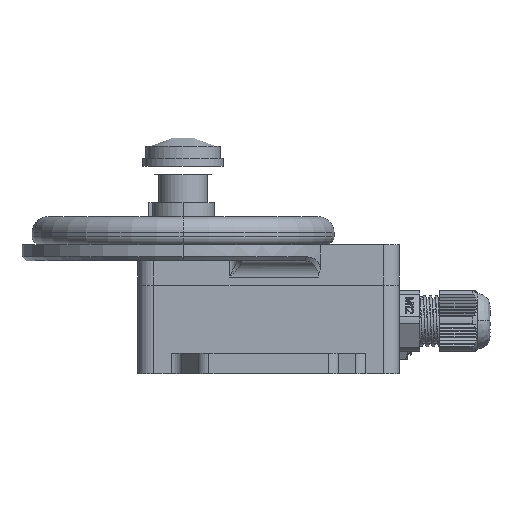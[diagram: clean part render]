
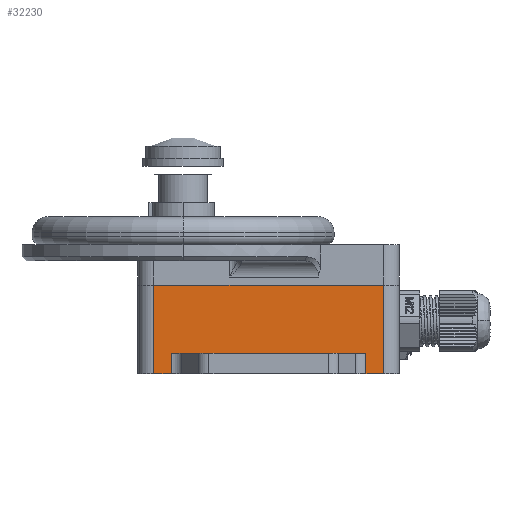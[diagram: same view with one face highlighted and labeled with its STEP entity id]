
A CAD part, left-side view. The second image highlights one B-rep face of the part: STEP entity #32230.
In plain terms, the highlighted planar face has unit normal (-1, 0, 0).
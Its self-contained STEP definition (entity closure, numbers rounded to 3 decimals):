
#3 = ORIENTED_EDGE ( 'NONE', *, *, #18602, .F. ) ;
#673 = LINE ( 'NONE', #24145, #17525 ) ;
#728 = VECTOR ( 'NONE', #8361, 1000. ) ;
#894 = CARTESIAN_POINT ( 'NONE',  ( -35.945, 14.605, 41.559 ) ) ;
#1946 = VECTOR ( 'NONE', #19356, 1000. ) ;
#2282 = DIRECTION ( 'NONE',  ( 0., 0., 1. ) ) ;
#4341 = ORIENTED_EDGE ( 'NONE', *, *, #12321, .F. ) ;
#4471 = VERTEX_POINT ( 'NONE', #27511 ) ;
#5771 = ORIENTED_EDGE ( 'NONE', *, *, #30575, .T. ) ;
#7106 = DIRECTION ( 'NONE',  ( 0., 1., 0. ) ) ;
#7134 = DIRECTION ( 'NONE',  ( 0., -1., 0. ) ) ;
#7901 = CARTESIAN_POINT ( 'NONE',  ( -35.945, -33.792, 41.559 ) ) ;
#8361 = DIRECTION ( 'NONE',  ( 0., 0., 1. ) ) ;
#10891 = VECTOR ( 'NONE', #7134, 1000. ) ;
#10913 = ORIENTED_EDGE ( 'NONE', *, *, #30739, .F. ) ;
#11165 = CARTESIAN_POINT ( 'NONE',  ( -35.945, 18.907, 19.559 ) ) ;
#11297 = DIRECTION ( 'NONE',  ( 0., -1., 0. ) ) ;
#11459 = VECTOR ( 'NONE', #15113, 1000. ) ;
#11497 = AXIS2_PLACEMENT_3D ( 'NONE', #11771, #13743, #27084 ) ;
#11771 = CARTESIAN_POINT ( 'NONE',  ( -35.945, -42.093, 41.559 ) ) ;
#12321 = EDGE_CURVE ( 'NONE', #19282, #15866, #23240, .T. ) ;
#12519 = EDGE_CURVE ( 'NONE', #4471, #22849, #22822, .T. ) ;
#12589 = VECTOR ( 'NONE', #2282, 1000. ) ;
#12663 = VERTEX_POINT ( 'NONE', #13967 ) ;
#12785 = CARTESIAN_POINT ( 'NONE',  ( -35.945, -38.093, 41.559 ) ) ;
#13715 = LINE ( 'NONE', #7901, #16844 ) ;
#13743 = DIRECTION ( 'NONE',  ( 1., 0., 0. ) ) ;
#13967 = CARTESIAN_POINT ( 'NONE',  ( -35.945, 18.907, 41.559 ) ) ;
#14041 = CARTESIAN_POINT ( 'NONE',  ( -35.945, -32.093, 24.559 ) ) ;
#14648 = LINE ( 'NONE', #15024, #20507 ) ;
#15024 = CARTESIAN_POINT ( 'NONE',  ( -35.945, -42.093, 19.559 ) ) ;
#15113 = DIRECTION ( 'NONE',  ( 0., 1., 0. ) ) ;
#15548 = ORIENTED_EDGE ( 'NONE', *, *, #29554, .T. ) ;
#15866 = VERTEX_POINT ( 'NONE', #22512 ) ;
#16523 = FACE_OUTER_BOUND ( 'NONE', #27452, .T. ) ;
#16597 = LINE ( 'NONE', #27150, #1946 ) ;
#16844 = VECTOR ( 'NONE', #24271, 1000. ) ;
#17525 = VECTOR ( 'NONE', #11297, 1000. ) ;
#17721 = ORIENTED_EDGE ( 'NONE', *, *, #12519, .T. ) ;
#18602 = EDGE_CURVE ( 'NONE', #22968, #26942, #14648, .T. ) ;
#19282 = VERTEX_POINT ( 'NONE', #29556 ) ;
#19356 = DIRECTION ( 'NONE',  ( 0., 0., -1. ) ) ;
#20094 = CARTESIAN_POINT ( 'NONE',  ( -35.945, 14.605, 19.559 ) ) ;
#20507 = VECTOR ( 'NONE', #7106, 1000. ) ;
#20661 = CARTESIAN_POINT ( 'NONE',  ( -35.945, -33.792, 24.559 ) ) ;
#22038 = PLANE ( 'NONE',  #11497 ) ;
#22128 = EDGE_CURVE ( 'NONE', #22849, #15866, #13715, .T. ) ;
#22512 = CARTESIAN_POINT ( 'NONE',  ( -35.945, -33.792, 19.559 ) ) ;
#22822 = LINE ( 'NONE', #14041, #10891 ) ;
#22849 = VERTEX_POINT ( 'NONE', #20661 ) ;
#22968 = VERTEX_POINT ( 'NONE', #20094 ) ;
#23240 = LINE ( 'NONE', #33931, #11459 ) ;
#24145 = CARTESIAN_POINT ( 'NONE',  ( -35.945, -42.093, 41.559 ) ) ;
#24271 = DIRECTION ( 'NONE',  ( 0., 0., -1. ) ) ;
#26102 = LINE ( 'NONE', #28880, #12589 ) ;
#26465 = ORIENTED_EDGE ( 'NONE', *, *, #22128, .T. ) ;
#26716 = VERTEX_POINT ( 'NONE', #12785 ) ;
#26942 = VERTEX_POINT ( 'NONE', #11165 ) ;
#27084 = DIRECTION ( 'NONE',  ( 0., 0., -1. ) ) ;
#27150 = CARTESIAN_POINT ( 'NONE',  ( -35.945, 18.907, 41.559 ) ) ;
#27246 = ORIENTED_EDGE ( 'NONE', *, *, #28596, .T. ) ;
#27452 = EDGE_LOOP ( 'NONE', ( #17721, #26465, #4341, #5771, #10913, #15548, #3, #27246 ) ) ;
#27511 = CARTESIAN_POINT ( 'NONE',  ( -35.945, 14.605, 24.559 ) ) ;
#28596 = EDGE_CURVE ( 'NONE', #22968, #4471, #32691, .T. ) ;
#28880 = CARTESIAN_POINT ( 'NONE',  ( -35.945, -38.093, 41.559 ) ) ;
#29554 = EDGE_CURVE ( 'NONE', #12663, #26942, #16597, .T. ) ;
#29556 = CARTESIAN_POINT ( 'NONE',  ( -35.945, -38.093, 19.559 ) ) ;
#30575 = EDGE_CURVE ( 'NONE', #19282, #26716, #26102, .T. ) ;
#30739 = EDGE_CURVE ( 'NONE', #12663, #26716, #673, .T. ) ;
#32230 = ADVANCED_FACE ( 'NONE', ( #16523 ), #22038, .F. ) ;
#32691 = LINE ( 'NONE', #894, #728 ) ;
#33931 = CARTESIAN_POINT ( 'NONE',  ( -35.945, -42.093, 19.559 ) ) ;
